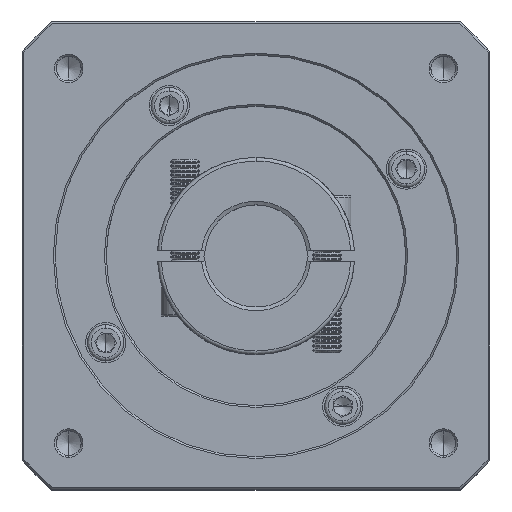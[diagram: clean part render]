
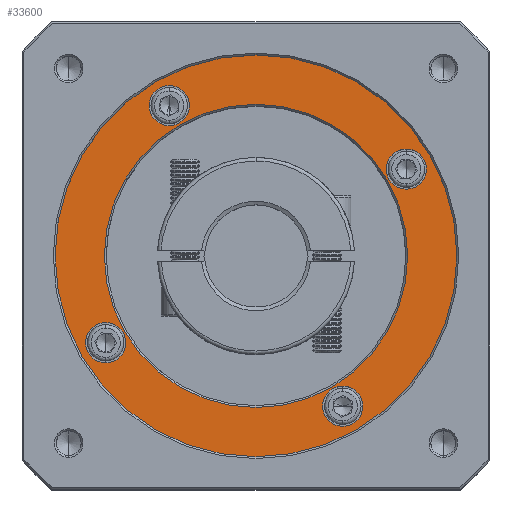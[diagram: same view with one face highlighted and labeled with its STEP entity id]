
A CAD part, top view. The second image highlights one B-rep face of the part: STEP entity #33600.
In plain terms, the highlighted planar face has unit normal (0, 0, 1).
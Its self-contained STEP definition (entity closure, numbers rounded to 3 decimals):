
#421 = CARTESIAN_POINT ( 'NONE',  ( 52.852, 81.618, 34.78 ) ) ;
#476 = DIRECTION ( 'NONE',  ( 0., 0., -1. ) ) ;
#1222 = CARTESIAN_POINT ( 'NONE',  ( 93.989, 105.368, 34.78 ) ) ;
#1838 = VERTEX_POINT ( 'NONE', #25922 ) ;
#1933 = EDGE_CURVE ( 'NONE', #1838, #92402, #103295, .T. ) ;
#3387 = CIRCLE ( 'NONE', #115387, 55. ) ;
#3815 = CARTESIAN_POINT ( 'NONE',  ( 29.102, 117.254, 34.78 ) ) ;
#8879 = DIRECTION ( 'NONE',  ( 0., 1., 0. ) ) ;
#12039 = CARTESIAN_POINT ( 'NONE',  ( 11.716, 57.868, 34.78 ) ) ;
#13238 = AXIS2_PLACEMENT_3D ( 'NONE', #12039, #83272, #73516 ) ;
#13874 = CIRCLE ( 'NONE', #90750, 5.5 ) ;
#20873 = DIRECTION ( 'NONE',  ( 0., 1., 0. ) ) ;
#22357 = AXIS2_PLACEMENT_3D ( 'NONE', #54451, #94537, #126189 ) ;
#23168 = DIRECTION ( 'NONE',  ( 0., 1., 0. ) ) ;
#24217 = PLANE ( 'NONE',  #22357 ) ;
#25922 = CARTESIAN_POINT ( 'NONE',  ( 52.852, 40.118, 34.78 ) ) ;
#26678 = AXIS2_PLACEMENT_3D ( 'NONE', #1222, #32313, #41620 ) ;
#27201 = DIRECTION ( 'NONE',  ( 0., 0., -1. ) ) ;
#27324 = VERTEX_POINT ( 'NONE', #47475 ) ;
#27480 = ORIENTED_EDGE ( 'NONE', *, *, #28203, .T. ) ;
#27731 = VERTEX_POINT ( 'NONE', #3815 ) ;
#27915 = AXIS2_PLACEMENT_3D ( 'NONE', #130874, #476, #20873 ) ;
#28015 = VERTEX_POINT ( 'NONE', #92623 ) ;
#28203 = EDGE_CURVE ( 'NONE', #33585, #128853, #88293, .T. ) ;
#29465 = AXIS2_PLACEMENT_3D ( 'NONE', #68922, #89373, #59094 ) ;
#30641 = DIRECTION ( 'NONE',  ( 0., 1., 0. ) ) ;
#32313 = DIRECTION ( 'NONE',  ( 0., 0., -1. ) ) ;
#33023 = ORIENTED_EDGE ( 'NONE', *, *, #44743, .T. ) ;
#33232 = VERTEX_POINT ( 'NONE', #94260 ) ;
#33585 = VERTEX_POINT ( 'NONE', #52691 ) ;
#33600 = ADVANCED_FACE ( 'NONE', ( #67680, #129906, #97919, #131433, #66083, #83617 ), #24217, .T. ) ;
#34582 = EDGE_LOOP ( 'NONE', ( #107800, #33023 ) ) ;
#34706 = EDGE_CURVE ( 'NONE', #27324, #63279, #89657, .T. ) ;
#36419 = DIRECTION ( 'NONE',  ( 0., 1., 0. ) ) ;
#38335 = EDGE_CURVE ( 'NONE', #27731, #121116, #112932, .T. ) ;
#41620 = DIRECTION ( 'NONE',  ( 0., 1., 0. ) ) ;
#42450 = CIRCLE ( 'NONE', #72142, 41.5 ) ;
#42933 = ORIENTED_EDGE ( 'NONE', *, *, #38335, .T. ) ;
#44141 = ORIENTED_EDGE ( 'NONE', *, *, #1933, .T. ) ;
#44743 = EDGE_CURVE ( 'NONE', #112640, #28015, #3387, .T. ) ;
#44783 = CARTESIAN_POINT ( 'NONE',  ( 11.716, 57.868, 34.78 ) ) ;
#45336 = CARTESIAN_POINT ( 'NONE',  ( 76.602, 34.981, 34.78 ) ) ;
#46039 = CARTESIAN_POINT ( 'NONE',  ( 29.102, 128.254, 34.78 ) ) ;
#47288 = AXIS2_PLACEMENT_3D ( 'NONE', #44783, #76474, #115186 ) ;
#47475 = CARTESIAN_POINT ( 'NONE',  ( 11.716, 52.368, 34.78 ) ) ;
#52324 = CARTESIAN_POINT ( 'NONE',  ( 11.716, 63.368, 34.78 ) ) ;
#52691 = CARTESIAN_POINT ( 'NONE',  ( 76.602, 45.981, 34.78 ) ) ;
#52924 = EDGE_CURVE ( 'NONE', #128853, #33585, #61130, .T. ) ;
#53248 = CARTESIAN_POINT ( 'NONE',  ( 93.989, 110.868, 34.78 ) ) ;
#53478 = CIRCLE ( 'NONE', #26678, 5.5 ) ;
#54088 = ORIENTED_EDGE ( 'NONE', *, *, #123590, .T. ) ;
#54451 = CARTESIAN_POINT ( 'NONE',  ( 52.852, 81.618, 34.78 ) ) ;
#56027 = EDGE_CURVE ( 'NONE', #121116, #27731, #104754, .T. ) ;
#56496 = EDGE_CURVE ( 'NONE', #117309, #33232, #13874, .T. ) ;
#59094 = DIRECTION ( 'NONE',  ( 0., 1., 0. ) ) ;
#59926 = ORIENTED_EDGE ( 'NONE', *, *, #34706, .T. ) ;
#60019 = AXIS2_PLACEMENT_3D ( 'NONE', #130864, #78782, #8879 ) ;
#60851 = DIRECTION ( 'NONE',  ( 0., 0., 1. ) ) ;
#61130 = CIRCLE ( 'NONE', #27915, 5.5 ) ;
#63279 = VERTEX_POINT ( 'NONE', #52324 ) ;
#64072 = DIRECTION ( 'NONE',  ( 0., 0., -1. ) ) ;
#65837 = ORIENTED_EDGE ( 'NONE', *, *, #56496, .T. ) ;
#66047 = DIRECTION ( 'NONE',  ( 0., 1., 0. ) ) ;
#66083 = FACE_BOUND ( 'NONE', #115603, .T. ) ;
#66712 = AXIS2_PLACEMENT_3D ( 'NONE', #128601, #97366, #36419 ) ;
#67680 = FACE_OUTER_BOUND ( 'NONE', #34582, .T. ) ;
#68922 = CARTESIAN_POINT ( 'NONE',  ( 52.852, 81.618, 34.78 ) ) ;
#72142 = AXIS2_PLACEMENT_3D ( 'NONE', #83258, #64072, #23168 ) ;
#73516 = DIRECTION ( 'NONE',  ( 0., 1., 0. ) ) ;
#74025 = ORIENTED_EDGE ( 'NONE', *, *, #52924, .T. ) ;
#74594 = CARTESIAN_POINT ( 'NONE',  ( 93.989, 105.368, 34.78 ) ) ;
#76046 = DIRECTION ( 'NONE',  ( 0., 1., 0. ) ) ;
#76474 = DIRECTION ( 'NONE',  ( 0., 0., -1. ) ) ;
#78782 = DIRECTION ( 'NONE',  ( 0., 0., -1. ) ) ;
#80340 = CARTESIAN_POINT ( 'NONE',  ( 52.852, 26.618, 34.78 ) ) ;
#81424 = EDGE_LOOP ( 'NONE', ( #125023, #42933 ) ) ;
#82824 = CARTESIAN_POINT ( 'NONE',  ( 52.852, 123.118, 34.78 ) ) ;
#83258 = CARTESIAN_POINT ( 'NONE',  ( 52.852, 81.618, 34.78 ) ) ;
#83272 = DIRECTION ( 'NONE',  ( 0., 0., -1. ) ) ;
#83617 = FACE_BOUND ( 'NONE', #132029, .T. ) ;
#85666 = DIRECTION ( 'NONE',  ( 0., 0., -1. ) ) ;
#86264 = CARTESIAN_POINT ( 'NONE',  ( 29.102, 122.754, 34.78 ) ) ;
#86712 = CIRCLE ( 'NONE', #13238, 5.5 ) ;
#88293 = CIRCLE ( 'NONE', #60019, 5.5 ) ;
#88389 = ORIENTED_EDGE ( 'NONE', *, *, #92382, .T. ) ;
#89373 = DIRECTION ( 'NONE',  ( 0., 0., 1. ) ) ;
#89657 = CIRCLE ( 'NONE', #47288, 5.5 ) ;
#90750 = AXIS2_PLACEMENT_3D ( 'NONE', #74594, #85666, #66047 ) ;
#92382 = EDGE_CURVE ( 'NONE', #92402, #1838, #42450, .T. ) ;
#92402 = VERTEX_POINT ( 'NONE', #82824 ) ;
#92623 = CARTESIAN_POINT ( 'NONE',  ( 52.852, 136.618, 34.78 ) ) ;
#94260 = CARTESIAN_POINT ( 'NONE',  ( 93.989, 99.868, 34.78 ) ) ;
#94537 = DIRECTION ( 'NONE',  ( 0., 0., 1. ) ) ;
#97366 = DIRECTION ( 'NONE',  ( 0., 0., -1. ) ) ;
#97919 = FACE_BOUND ( 'NONE', #81424, .T. ) ;
#98339 = ORIENTED_EDGE ( 'NONE', *, *, #116833, .T. ) ;
#100138 = EDGE_LOOP ( 'NONE', ( #88389, #44141 ) ) ;
#100144 = DIRECTION ( 'NONE',  ( 0., 1., 0. ) ) ;
#103295 = CIRCLE ( 'NONE', #127278, 41.5 ) ;
#104754 = CIRCLE ( 'NONE', #66712, 5.5 ) ;
#107800 = ORIENTED_EDGE ( 'NONE', *, *, #111570, .T. ) ;
#110944 = EDGE_LOOP ( 'NONE', ( #65837, #54088 ) ) ;
#111570 = EDGE_CURVE ( 'NONE', #28015, #112640, #124246, .T. ) ;
#112640 = VERTEX_POINT ( 'NONE', #80340 ) ;
#112932 = CIRCLE ( 'NONE', #123832, 5.5 ) ;
#115186 = DIRECTION ( 'NONE',  ( 0., 1., 0. ) ) ;
#115387 = AXIS2_PLACEMENT_3D ( 'NONE', #421, #60851, #30641 ) ;
#115603 = EDGE_LOOP ( 'NONE', ( #98339, #59926 ) ) ;
#116833 = EDGE_CURVE ( 'NONE', #63279, #27324, #86712, .T. ) ;
#117309 = VERTEX_POINT ( 'NONE', #53248 ) ;
#118898 = CARTESIAN_POINT ( 'NONE',  ( 52.852, 81.618, 34.78 ) ) ;
#121116 = VERTEX_POINT ( 'NONE', #46039 ) ;
#123590 = EDGE_CURVE ( 'NONE', #33232, #117309, #53478, .T. ) ;
#123832 = AXIS2_PLACEMENT_3D ( 'NONE', #86264, #125940, #76046 ) ;
#124246 = CIRCLE ( 'NONE', #29465, 55. ) ;
#125023 = ORIENTED_EDGE ( 'NONE', *, *, #56027, .T. ) ;
#125940 = DIRECTION ( 'NONE',  ( 0., 0., -1. ) ) ;
#126189 = DIRECTION ( 'NONE',  ( 0., 1., 0. ) ) ;
#127278 = AXIS2_PLACEMENT_3D ( 'NONE', #118898, #27201, #100144 ) ;
#128601 = CARTESIAN_POINT ( 'NONE',  ( 29.102, 122.754, 34.78 ) ) ;
#128853 = VERTEX_POINT ( 'NONE', #45336 ) ;
#129906 = FACE_BOUND ( 'NONE', #100138, .T. ) ;
#130864 = CARTESIAN_POINT ( 'NONE',  ( 76.602, 40.481, 34.78 ) ) ;
#130874 = CARTESIAN_POINT ( 'NONE',  ( 76.602, 40.481, 34.78 ) ) ;
#131433 = FACE_BOUND ( 'NONE', #110944, .T. ) ;
#132029 = EDGE_LOOP ( 'NONE', ( #27480, #74025 ) ) ;
